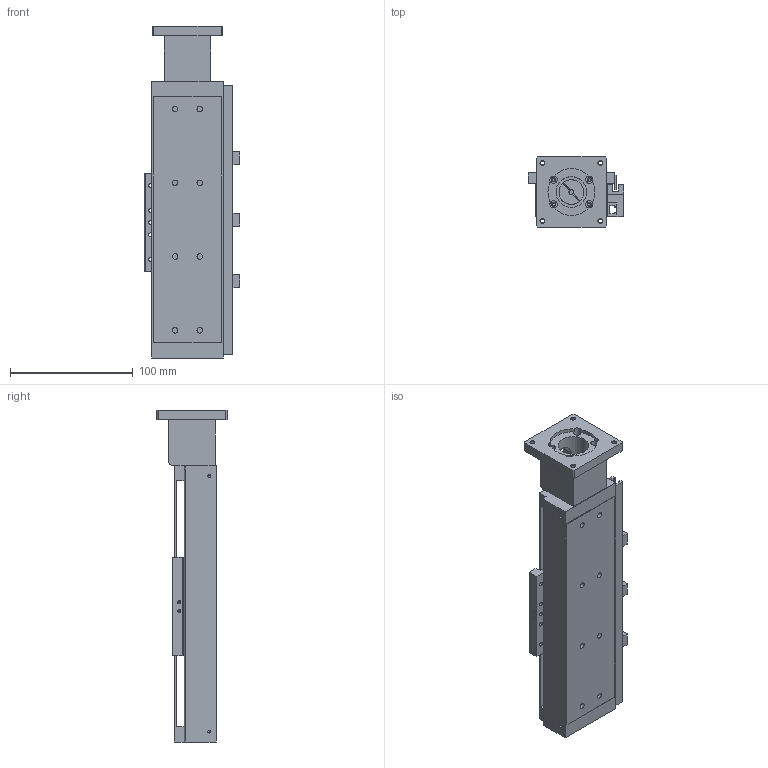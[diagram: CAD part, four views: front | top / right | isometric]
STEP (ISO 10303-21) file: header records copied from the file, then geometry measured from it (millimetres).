
FILE_DESCRIPTION((''),'2;1');
FILE_NAME('E:\uia actuator\UIA actuator 3d- 2009\Standard ball screw actuator\UIA058R7DC\UIA058R7DC3-STEP file\with motor mount\UIA058R7DC step file 2016\UIA058R7DC-100-R0803-M23-P13-C10-S.stp','2016-04-15T15:56:41',('h029'),(''),'Autodesk Inventor 11','Autodesk Inventor 11','');
FILE_SCHEMA(('AUTOMOTIVE_DESIGN { 1 0 10303 214 1 1 1 1 }'));
Length unit declared in the file: millimetre
Products named in the file (11): UIA058R7DC-100-R0803-M23-P13-C10-S; UIA058R7DC-100-BODY; UIA058R7DC-100-SENSOR RAIL; UIA058R7DC-CARRIAGE; UIA058R7DC SENSOR FLAG; 10-100 0110-M23 MotorMOUNT; SOH-20C; centre piece; side 2; side 1; NF E 25-125  (Regular Thread) M2.5 x 6
Assembly tree (10 placements, depth 3):
  UIA058R7DC-100-R0803-M23-P13-C10-S
    UIA058R7DC-100-BODY
    UIA058R7DC-100-SENSOR RAIL
    UIA058R7DC-CARRIAGE
    UIA058R7DC SENSOR FLAG
    10-100 0110-M23 MotorMOUNT
    SOH-20C
      centre piece
      side 2
      side 1
      NF E 25-125  (Regular Thread) M2.5 x 6
Bounding box: 77.4 x 57 x 270 mm (x, y, z)
Volume: 284394.2 mm3; surface area: 137274.4 mm2
Topology: 10 solids, 10 shells, 339 faces, 943 edges, 620 vertices
Faces by surface type: plane 204, cylinder 94, cone 34, bspline 6, torus 1
Full cylindrical faces by diameter (mm): 2.013 x4, 2.459 x8, 2.5 x1, 3 x8, 3.242 x12, 3.5 x6, 4 x2, 4.5 x9, 6 x5, 7.5 x8, 16 x2, 20 x3, 25 x1
Entity records: 10797 total; most frequent: CARTESIAN_POINT 2198, DIRECTION 1728, ORIENTED_EDGE 1582, EDGE_CURVE 791, AXIS2_PLACEMENT_3D 604, VERTEX_POINT 574, EDGE_LOOP 540, VECTOR 520
